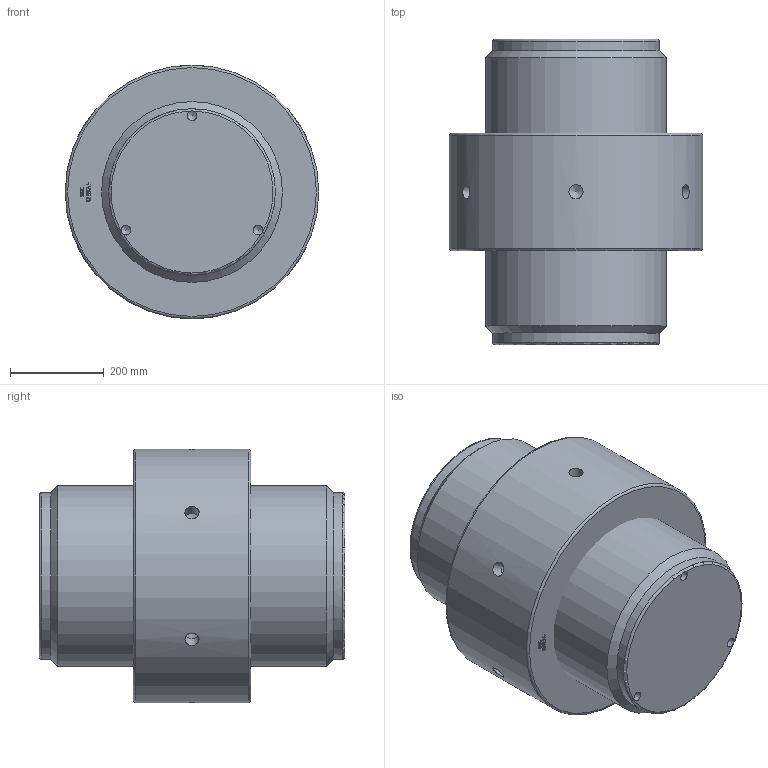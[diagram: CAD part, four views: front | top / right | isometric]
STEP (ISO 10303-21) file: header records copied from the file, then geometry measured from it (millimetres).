
FILE_DESCRIPTION(/* description */ (''),/* implementation_level */ '2;1');
FILE_NAME(/* name */ 'F:\Clienti LS\Redaelli\CYT\CYT\ARRNGEMENT\CYT124 61 061 0.stp',/* time_stamp */ '2021-05-09T08:56:52+02:00',/* author */ ('ranca'),/* organization */ (''),/* preprocessor_version */ 'ST-DEVELOPER v16.13',/* originating_system */ 'Autodesk Inventor 2018',/* authorisation */ '');
FILE_SCHEMA (('AUTOMOTIVE_DESIGN { 1 0 10303 214 3 1 1 }'));
Length unit declared in the file: millimetre
Products named in the file (3): CYT012-61-061-0; CYT012-61-061-0_1; CYT012-61-061-0_DADO
Assembly tree (2 placements, depth 2):
  CYT012-61-061-0
    CYT012-61-061-0_1
    CYT012-61-061-0_DADO
Bounding box: 540 x 651 x 540 mm (x, y, z)
Volume: 103541632 mm3; surface area: 1965442.3 mm2
Topology: 2 solids, 2 shells, 338 faces, 935 edges, 622 vertices
Faces by surface type: plane 161, bspline 148, cylinder 14, cone 11, torus 4
Full cylindrical faces by diameter (mm): 20.752 x3, 30 x6, 355 x2, 378.51 x1, 385 x1, 540 x1
Entity records: 11448 total; most frequent: CARTESIAN_POINT 3988, ORIENTED_EDGE 1772, DIRECTION 993, EDGE_CURVE 886, VERTEX_POINT 602, LINE 547, VECTOR 547, EDGE_LOOP 390
